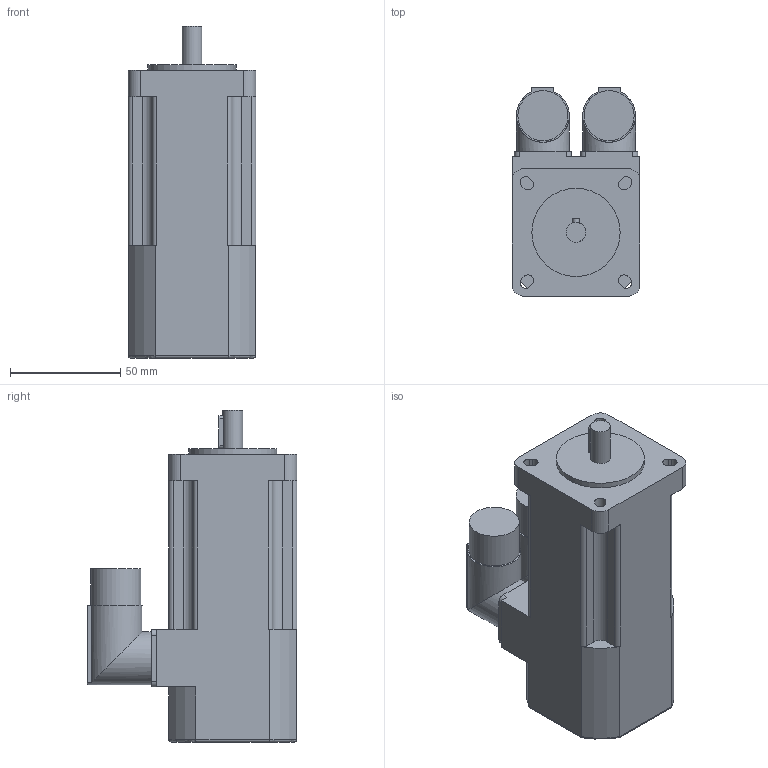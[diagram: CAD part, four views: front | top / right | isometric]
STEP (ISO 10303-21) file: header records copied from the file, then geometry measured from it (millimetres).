
FILE_DESCRIPTION(/* description */ (''),/* implementation_level */ '2;1');
FILE_NAME(/* name */ '\\Lafnas01\disegni\Archivi Lafert\3D\CAD 3D\MODELLI\Assiemi clienti\Serad\Modelli 3D Serad\B28Q\Encoder\Without Brake\B28D7Qxx6ARx2033.ipt.stp',/* time_stamp */ '2015-09-07T10:48:27+02:00',/* author */ ('Pastrello Ylenia'),/* organization */ (''),/* preprocessor_version */ 'ST-DEVELOPER v15.6',/* originating_system */ 'Autodesk Inventor 2015',/* authorisation */ '');
FILE_SCHEMA (('AUTOMOTIVE_DESIGN { 1 0 10303 214 3 1 1 }'));
Length unit declared in the file: millimetre
Products named in the file (1): B28D7Qxx6ARx2033
Bounding box: 58 x 95 x 150.5 mm (x, y, z)
Volume: 461561.1 mm3; surface area: 47527.4 mm2
Topology: 1 solids, 1 shells, 135 faces, 364 edges, 237 vertices
Faces by surface type: plane 71, cylinder 60, torus 4
Full cylindrical faces by diameter (mm): 9 x1, 22.7 x2, 24 x2, 40 x1
Entity records: 4341 total; most frequent: CARTESIAN_POINT 864, DIRECTION 737, ORIENTED_EDGE 712, EDGE_CURVE 355, AXIS2_PLACEMENT_3D 258, VERTEX_POINT 235, LINE 221, VECTOR 221
